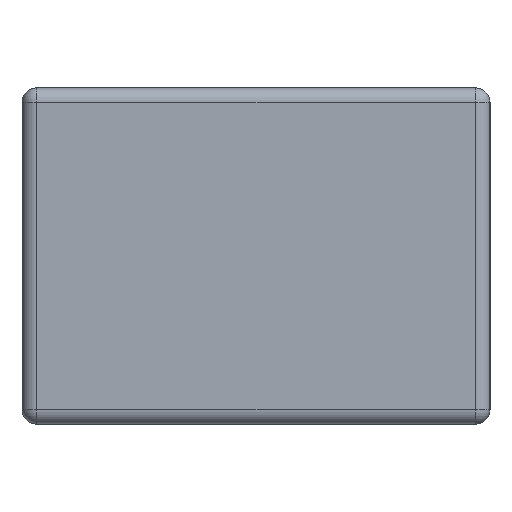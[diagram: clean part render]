
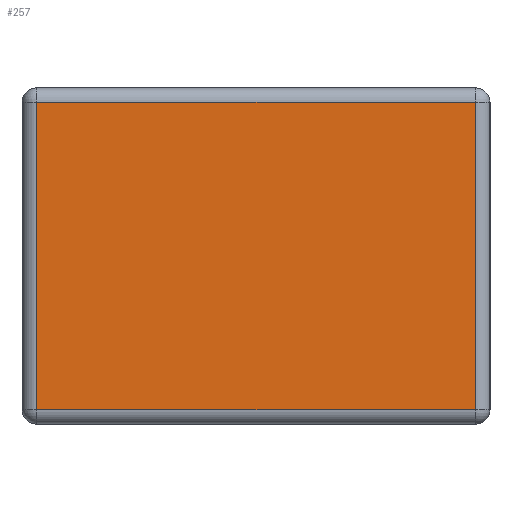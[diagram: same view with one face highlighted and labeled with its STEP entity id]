
A CAD part, left-side view. The second image highlights one B-rep face of the part: STEP entity #257.
In plain terms, the highlighted planar face has unit normal (-1, 0, 0).
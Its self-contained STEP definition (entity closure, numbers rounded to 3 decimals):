
#17 = CARTESIAN_POINT ( 'NONE',  ( -1.6, -0.75, 1.1 ) ) ;
#18 = VERTEX_POINT ( 'NONE', #17 ) ;
#26 = CARTESIAN_POINT ( 'NONE',  ( -1.6, -0.75, 0.05 ) ) ;
#27 = VERTEX_POINT ( 'NONE', #26 ) ;
#28 = CARTESIAN_POINT ( 'NONE',  ( -1.6, -0.75, 1.15 ) ) ;
#29 = DIRECTION ( 'NONE',  ( 0., 0., 1. ) ) ;
#30 = VECTOR ( 'NONE', #29, 1000. ) ;
#31 = LINE ( 'NONE', #28, #30 ) ;
#32 = EDGE_CURVE ( 'NONE', #27, #18, #31, .T. ) ;
#57 = CARTESIAN_POINT ( 'NONE',  ( -1.6, 0.75, 1.1 ) ) ;
#58 = VERTEX_POINT ( 'NONE', #57 ) ;
#76 = CARTESIAN_POINT ( 'NONE',  ( -1.6, 0.75, 0.05 ) ) ;
#77 = VERTEX_POINT ( 'NONE', #76 ) ;
#85 = CARTESIAN_POINT ( 'NONE',  ( -1.6, 0.75, 0. ) ) ;
#86 = DIRECTION ( 'NONE',  ( 0., 0., -1. ) ) ;
#87 = VECTOR ( 'NONE', #86, 1000. ) ;
#88 = LINE ( 'NONE', #85, #87 ) ;
#89 = EDGE_CURVE ( 'NONE', #58, #77, #88, .T. ) ;
#179 = CARTESIAN_POINT ( 'NONE',  ( -1.6, 0.8, 1.1 ) ) ;
#180 = DIRECTION ( 'NONE',  ( 0., 1., 0. ) ) ;
#181 = VECTOR ( 'NONE', #180, 1000. ) ;
#182 = LINE ( 'NONE', #179, #181 ) ;
#183 = EDGE_CURVE ( 'NONE', #18, #58, #182, .T. ) ;
#241 = ORIENTED_EDGE ( 'NONE', *, *, #183, .T. ) ;
#242 = ORIENTED_EDGE ( 'NONE', *, *, #89, .T. ) ;
#243 = CARTESIAN_POINT ( 'NONE',  ( -1.6, -0.8, 0.05 ) ) ;
#244 = DIRECTION ( 'NONE',  ( 0., -1., 0. ) ) ;
#245 = VECTOR ( 'NONE', #244, 1000. ) ;
#246 = LINE ( 'NONE', #243, #245 ) ;
#247 = EDGE_CURVE ( 'NONE', #77, #27, #246, .T. ) ;
#248 = ORIENTED_EDGE ( 'NONE', *, *, #247, .T. ) ;
#249 = ORIENTED_EDGE ( 'NONE', *, *, #32, .T. ) ;
#250 = EDGE_LOOP ( 'NONE', ( #241, #242, #248, #249 ) ) ;
#251 = FACE_OUTER_BOUND ( 'NONE', #250, .T. ) ;
#252 = CARTESIAN_POINT ( 'NONE',  ( -1.6, 0., 0. ) ) ;
#253 = DIRECTION ( 'NONE',  ( -1., 0., 0. ) ) ;
#254 = DIRECTION ( 'NONE',  ( 0., -1., 0. ) ) ;
#255 = AXIS2_PLACEMENT_3D ( 'NONE', #252, #253, #254 ) ;
#256 = PLANE ( 'NONE', #255 ) ;
#257 = ADVANCED_FACE ( 'NONE', ( #251 ), #256, .T. ) ;
